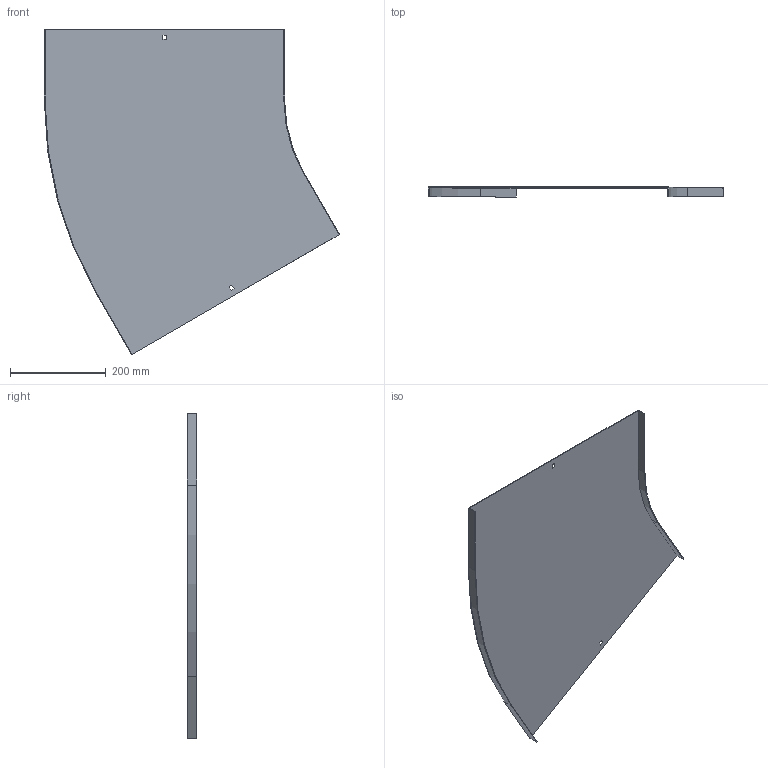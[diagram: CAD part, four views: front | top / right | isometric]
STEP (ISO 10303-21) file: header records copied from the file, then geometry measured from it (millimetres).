
FILE_DESCRIPTION (( 'STEP AP214' ), '1' );
FILE_NAME ('A2_12N3R500.step', '2025-02-21T10:48:59', ( '' ), ( '' ), 'SwSTEP 2.0', 'SolidWorks 2023', '' );
FILE_SCHEMA (( 'AUTOMOTIVE_DESIGN' ));
Length unit declared in the file: millimetre
Products named in the file (1): A2_12N3R500
Bounding box: 617.99 x 20 x 680.65 mm (x, y, z)
Volume: 476087.8 mm3; surface area: 638260.6 mm2
Topology: 1 solids, 1 shells, 26 faces, 72 edges, 48 vertices
Faces by surface type: plane 22, cylinder 4
Entity records: 855 total; most frequent: CARTESIAN_POINT 147, ORIENTED_EDGE 144, DIRECTION 134, EDGE_CURVE 72, LINE 64, VECTOR 64, VERTEX_POINT 48, AXIS2_PLACEMENT_3D 35
